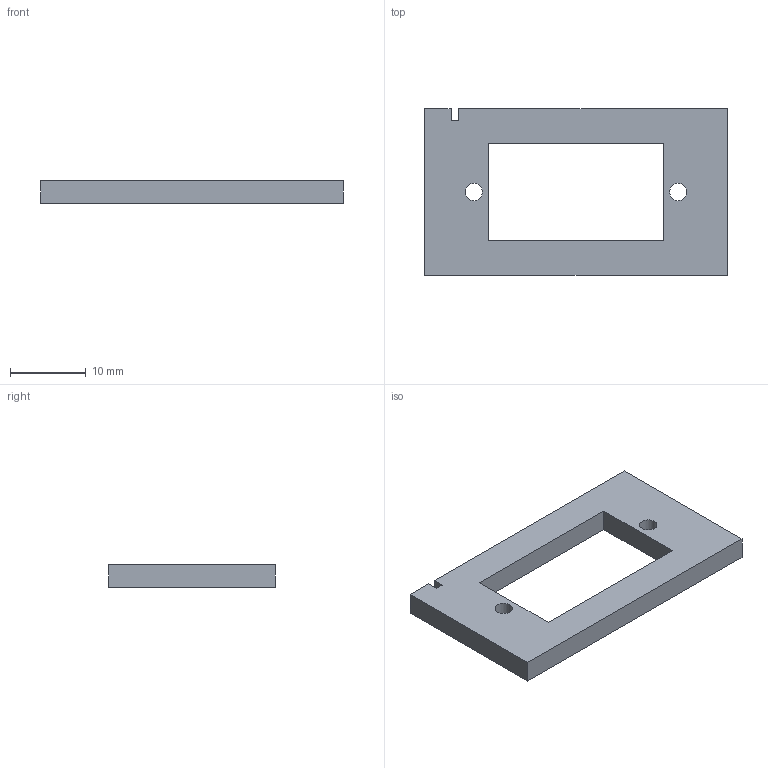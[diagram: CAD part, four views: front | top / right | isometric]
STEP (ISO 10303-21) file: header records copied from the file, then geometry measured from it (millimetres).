
FILE_DESCRIPTION(('Open CASCADE Model'),'2;1');
FILE_NAME('Open CASCADE Shape Model','2026-10-26T16:19:27',('Author'),( 'Open CASCADE'),'Open CASCADE STEP processor 7.8','Open CASCADE 7.8' ,'Unknown');
FILE_SCHEMA(('AUTOMOTIVE_DESIGN { 1 0 10303 214 1 1 1 1 }'));
Length unit declared in the file: millimetre
Products named in the file (1): Open CASCADE STEP translator 7.8 1
Bounding box: 40 x 22 x 3 mm (x, y, z)
Volume: 1719.7 mm3; surface area: 1786.8 mm2
Topology: 1 solids, 1 shells, 16 faces, 42 edges, 28 vertices
Faces by surface type: plane 14, cylinder 2
Full cylindrical faces by diameter (mm): 2.3 x2
Entity records: 1026 total; most frequent: CARTESIAN_POINT 203, DIRECTION 132, LINE 86, VECTOR 86, ORIENTED_EDGE 84, PCURVE 84, DEFINITIONAL_REPRESENTATION 84, EDGE_CURVE 42
